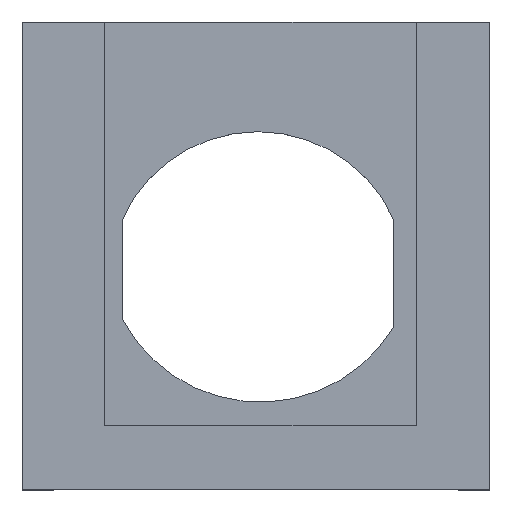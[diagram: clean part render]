
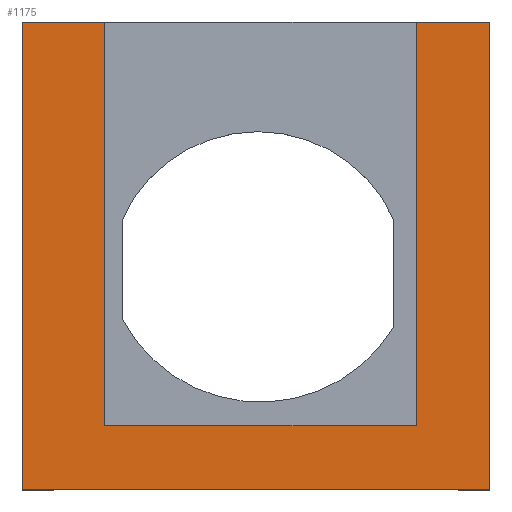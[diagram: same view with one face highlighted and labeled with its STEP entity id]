
A CAD part, top view. The second image highlights one B-rep face of the part: STEP entity #1175.
In plain terms, the highlighted planar face has unit normal (0, 0, 1).
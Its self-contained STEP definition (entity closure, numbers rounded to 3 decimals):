
#356 = VERTEX_POINT('',#357);
#357 = CARTESIAN_POINT('',(-30.,30.,2.5));
#366 = PLANE('',#367);
#367 = AXIS2_PLACEMENT_3D('',#368,#369,#370);
#368 = CARTESIAN_POINT('',(-30.,-30.,2.5));
#369 = DIRECTION('',(1.,0.,0.));
#370 = DIRECTION('',(0.,0.,-1.));
#378 = PLANE('',#379);
#379 = AXIS2_PLACEMENT_3D('',#380,#381,#382);
#380 = CARTESIAN_POINT('',(30.,30.,2.5));
#381 = DIRECTION('',(0.,-1.,0.));
#382 = DIRECTION('',(1.,0.,0.));
#531 = VERTEX_POINT('',#532);
#532 = CARTESIAN_POINT('',(-30.,-30.,2.5));
#546 = PLANE('',#547);
#547 = AXIS2_PLACEMENT_3D('',#548,#549,#550);
#548 = CARTESIAN_POINT('',(30.,-30.,2.5));
#549 = DIRECTION('',(0.,1.,0.));
#550 = DIRECTION('',(-1.,0.,0.));
#558 = EDGE_CURVE('',#356,#531,#559,.T.);
#559 = SURFACE_CURVE('',#560,(#564,#571),.PCURVE_S1.);
#560 = LINE('',#561,#562);
#561 = CARTESIAN_POINT('',(-30.,-30.,2.5));
#562 = VECTOR('',#563,1.);
#563 = DIRECTION('',(-0.,-1.,-0.));
#564 = PCURVE('',#366,#565);
#565 = DEFINITIONAL_REPRESENTATION('',(#566),#570);
#566 = LINE('',#567,#568);
#567 = CARTESIAN_POINT('',(0.,0.));
#568 = VECTOR('',#569,1.);
#569 = DIRECTION('',(0.,-1.));
#570 = ( GEOMETRIC_REPRESENTATION_CONTEXT(2) 
PARAMETRIC_REPRESENTATION_CONTEXT() REPRESENTATION_CONTEXT('2D SPACE',''
  ) );
#571 = PCURVE('',#572,#577);
#572 = PLANE('',#573);
#573 = AXIS2_PLACEMENT_3D('',#574,#575,#576);
#574 = CARTESIAN_POINT('',(0.,0.,2.5));
#575 = DIRECTION('',(0.,-0.,1.));
#576 = DIRECTION('',(1.,0.,0.));
#577 = DEFINITIONAL_REPRESENTATION('',(#578),#582);
#578 = LINE('',#579,#580);
#579 = CARTESIAN_POINT('',(-30.,-30.));
#580 = VECTOR('',#581,1.);
#581 = DIRECTION('',(-0.,-1.));
#582 = ( GEOMETRIC_REPRESENTATION_CONTEXT(2) 
PARAMETRIC_REPRESENTATION_CONTEXT() REPRESENTATION_CONTEXT('2D SPACE',''
  ) );
#714 = VERTEX_POINT('',#715);
#715 = CARTESIAN_POINT('',(30.,-30.,2.5));
#729 = PLANE('',#730);
#730 = AXIS2_PLACEMENT_3D('',#731,#732,#733);
#731 = CARTESIAN_POINT('',(30.,-30.,2.5));
#732 = DIRECTION('',(-1.,0.,0.));
#733 = DIRECTION('',(0.,0.,1.));
#741 = EDGE_CURVE('',#531,#714,#742,.T.);
#742 = SURFACE_CURVE('',#743,(#747,#754),.PCURVE_S1.);
#743 = LINE('',#744,#745);
#744 = CARTESIAN_POINT('',(30.,-30.,2.5));
#745 = VECTOR('',#746,1.);
#746 = DIRECTION('',(1.,0.,-0.));
#747 = PCURVE('',#546,#748);
#748 = DEFINITIONAL_REPRESENTATION('',(#749),#753);
#749 = LINE('',#750,#751);
#750 = CARTESIAN_POINT('',(0.,0.));
#751 = VECTOR('',#752,1.);
#752 = DIRECTION('',(-1.,0.));
#753 = ( GEOMETRIC_REPRESENTATION_CONTEXT(2) 
PARAMETRIC_REPRESENTATION_CONTEXT() REPRESENTATION_CONTEXT('2D SPACE',''
  ) );
#754 = PCURVE('',#572,#755);
#755 = DEFINITIONAL_REPRESENTATION('',(#756),#760);
#756 = LINE('',#757,#758);
#757 = CARTESIAN_POINT('',(30.,-30.));
#758 = VECTOR('',#759,1.);
#759 = DIRECTION('',(1.,0.));
#760 = ( GEOMETRIC_REPRESENTATION_CONTEXT(2) 
PARAMETRIC_REPRESENTATION_CONTEXT() REPRESENTATION_CONTEXT('2D SPACE',''
  ) );
#892 = VERTEX_POINT('',#893);
#893 = CARTESIAN_POINT('',(30.,30.,2.5));
#914 = EDGE_CURVE('',#714,#892,#915,.T.);
#915 = SURFACE_CURVE('',#916,(#920,#927),.PCURVE_S1.);
#916 = LINE('',#917,#918);
#917 = CARTESIAN_POINT('',(30.,-30.,2.5));
#918 = VECTOR('',#919,1.);
#919 = DIRECTION('',(0.,1.,0.));
#920 = PCURVE('',#729,#921);
#921 = DEFINITIONAL_REPRESENTATION('',(#922),#926);
#922 = LINE('',#923,#924);
#923 = CARTESIAN_POINT('',(0.,0.));
#924 = VECTOR('',#925,1.);
#925 = DIRECTION('',(0.,1.));
#926 = ( GEOMETRIC_REPRESENTATION_CONTEXT(2) 
PARAMETRIC_REPRESENTATION_CONTEXT() REPRESENTATION_CONTEXT('2D SPACE',''
  ) );
#927 = PCURVE('',#572,#928);
#928 = DEFINITIONAL_REPRESENTATION('',(#929),#933);
#929 = LINE('',#930,#931);
#930 = CARTESIAN_POINT('',(30.,-30.));
#931 = VECTOR('',#932,1.);
#932 = DIRECTION('',(0.,1.));
#933 = ( GEOMETRIC_REPRESENTATION_CONTEXT(2) 
PARAMETRIC_REPRESENTATION_CONTEXT() REPRESENTATION_CONTEXT('2D SPACE',''
  ) );
#964 = VERTEX_POINT('',#965);
#965 = CARTESIAN_POINT('',(20.542,30.,2.5));
#979 = PLANE('',#980);
#980 = AXIS2_PLACEMENT_3D('',#981,#982,#983);
#981 = CARTESIAN_POINT('',(20.542,-21.769,2.));
#982 = DIRECTION('',(1.,-0.,0.));
#983 = DIRECTION('',(0.,0.,-1.));
#991 = EDGE_CURVE('',#892,#964,#992,.T.);
#992 = SURFACE_CURVE('',#993,(#997,#1004),.PCURVE_S1.);
#993 = LINE('',#994,#995);
#994 = CARTESIAN_POINT('',(30.,30.,2.5));
#995 = VECTOR('',#996,1.);
#996 = DIRECTION('',(-1.,0.,0.));
#997 = PCURVE('',#378,#998);
#998 = DEFINITIONAL_REPRESENTATION('',(#999),#1003);
#999 = LINE('',#1000,#1001);
#1000 = CARTESIAN_POINT('',(0.,0.));
#1001 = VECTOR('',#1002,1.);
#1002 = DIRECTION('',(-1.,0.));
#1003 = ( GEOMETRIC_REPRESENTATION_CONTEXT(2) 
PARAMETRIC_REPRESENTATION_CONTEXT() REPRESENTATION_CONTEXT('2D SPACE',''
  ) );
#1004 = PCURVE('',#572,#1005);
#1005 = DEFINITIONAL_REPRESENTATION('',(#1006),#1010);
#1006 = LINE('',#1007,#1008);
#1007 = CARTESIAN_POINT('',(30.,30.));
#1008 = VECTOR('',#1009,1.);
#1009 = DIRECTION('',(-1.,0.));
#1010 = ( GEOMETRIC_REPRESENTATION_CONTEXT(2) 
PARAMETRIC_REPRESENTATION_CONTEXT() REPRESENTATION_CONTEXT('2D SPACE',''
  ) );
#1127 = EDGE_CURVE('',#1128,#356,#1130,.T.);
#1128 = VERTEX_POINT('',#1129);
#1129 = CARTESIAN_POINT('',(-19.396,30.,2.5));
#1130 = SURFACE_CURVE('',#1131,(#1135,#1142),.PCURVE_S1.);
#1131 = LINE('',#1132,#1133);
#1132 = CARTESIAN_POINT('',(30.,30.,2.5));
#1133 = VECTOR('',#1134,1.);
#1134 = DIRECTION('',(-1.,0.,0.));
#1135 = PCURVE('',#378,#1136);
#1136 = DEFINITIONAL_REPRESENTATION('',(#1137),#1141);
#1137 = LINE('',#1138,#1139);
#1138 = CARTESIAN_POINT('',(0.,0.));
#1139 = VECTOR('',#1140,1.);
#1140 = DIRECTION('',(-1.,0.));
#1141 = ( GEOMETRIC_REPRESENTATION_CONTEXT(2) 
PARAMETRIC_REPRESENTATION_CONTEXT() REPRESENTATION_CONTEXT('2D SPACE',''
  ) );
#1142 = PCURVE('',#572,#1143);
#1143 = DEFINITIONAL_REPRESENTATION('',(#1144),#1148);
#1144 = LINE('',#1145,#1146);
#1145 = CARTESIAN_POINT('',(30.,30.));
#1146 = VECTOR('',#1147,1.);
#1147 = DIRECTION('',(-1.,0.));
#1148 = ( GEOMETRIC_REPRESENTATION_CONTEXT(2) 
PARAMETRIC_REPRESENTATION_CONTEXT() REPRESENTATION_CONTEXT('2D SPACE',''
  ) );
#1164 = PLANE('',#1165);
#1165 = AXIS2_PLACEMENT_3D('',#1166,#1167,#1168);
#1166 = CARTESIAN_POINT('',(-19.396,30.,2.));
#1167 = DIRECTION('',(-1.,0.,-0.));
#1168 = DIRECTION('',(0.,0.,1.));
#1175 = ADVANCED_FACE('',(#1176),#572,.T.);
#1176 = FACE_BOUND('',#1177,.T.);
#1177 = EDGE_LOOP('',(#1178,#1201,#1229,#1250,#1251,#1252,#1253,#1254));
#1178 = ORIENTED_EDGE('',*,*,#1179,.F.);
#1179 = EDGE_CURVE('',#1180,#964,#1182,.T.);
#1180 = VERTEX_POINT('',#1181);
#1181 = CARTESIAN_POINT('',(20.542,-21.769,2.5));
#1182 = SURFACE_CURVE('',#1183,(#1187,#1194),.PCURVE_S1.);
#1183 = LINE('',#1184,#1185);
#1184 = CARTESIAN_POINT('',(20.542,-21.769,2.5));
#1185 = VECTOR('',#1186,1.);
#1186 = DIRECTION('',(0.,1.,0.));
#1187 = PCURVE('',#572,#1188);
#1188 = DEFINITIONAL_REPRESENTATION('',(#1189),#1193);
#1189 = LINE('',#1190,#1191);
#1190 = CARTESIAN_POINT('',(20.542,-21.769));
#1191 = VECTOR('',#1192,1.);
#1192 = DIRECTION('',(0.,1.));
#1193 = ( GEOMETRIC_REPRESENTATION_CONTEXT(2) 
PARAMETRIC_REPRESENTATION_CONTEXT() REPRESENTATION_CONTEXT('2D SPACE',''
  ) );
#1194 = PCURVE('',#979,#1195);
#1195 = DEFINITIONAL_REPRESENTATION('',(#1196),#1200);
#1196 = LINE('',#1197,#1198);
#1197 = CARTESIAN_POINT('',(-0.5,0.));
#1198 = VECTOR('',#1199,1.);
#1199 = DIRECTION('',(0.,1.));
#1200 = ( GEOMETRIC_REPRESENTATION_CONTEXT(2) 
PARAMETRIC_REPRESENTATION_CONTEXT() REPRESENTATION_CONTEXT('2D SPACE',''
  ) );
#1201 = ORIENTED_EDGE('',*,*,#1202,.F.);
#1202 = EDGE_CURVE('',#1203,#1180,#1205,.T.);
#1203 = VERTEX_POINT('',#1204);
#1204 = CARTESIAN_POINT('',(-19.396,-21.769,2.5));
#1205 = SURFACE_CURVE('',#1206,(#1210,#1217),.PCURVE_S1.);
#1206 = LINE('',#1207,#1208);
#1207 = CARTESIAN_POINT('',(-19.396,-21.769,2.5));
#1208 = VECTOR('',#1209,1.);
#1209 = DIRECTION('',(1.,0.,0.));
#1210 = PCURVE('',#572,#1211);
#1211 = DEFINITIONAL_REPRESENTATION('',(#1212),#1216);
#1212 = LINE('',#1213,#1214);
#1213 = CARTESIAN_POINT('',(-19.396,-21.769));
#1214 = VECTOR('',#1215,1.);
#1215 = DIRECTION('',(1.,0.));
#1216 = ( GEOMETRIC_REPRESENTATION_CONTEXT(2) 
PARAMETRIC_REPRESENTATION_CONTEXT() REPRESENTATION_CONTEXT('2D SPACE',''
  ) );
#1217 = PCURVE('',#1218,#1223);
#1218 = PLANE('',#1219);
#1219 = AXIS2_PLACEMENT_3D('',#1220,#1221,#1222);
#1220 = CARTESIAN_POINT('',(-19.396,-21.769,2.));
#1221 = DIRECTION('',(0.,-1.,0.));
#1222 = DIRECTION('',(0.,-0.,-1.));
#1223 = DEFINITIONAL_REPRESENTATION('',(#1224),#1228);
#1224 = LINE('',#1225,#1226);
#1225 = CARTESIAN_POINT('',(-0.5,0.));
#1226 = VECTOR('',#1227,1.);
#1227 = DIRECTION('',(0.,1.));
#1228 = ( GEOMETRIC_REPRESENTATION_CONTEXT(2) 
PARAMETRIC_REPRESENTATION_CONTEXT() REPRESENTATION_CONTEXT('2D SPACE',''
  ) );
#1229 = ORIENTED_EDGE('',*,*,#1230,.F.);
#1230 = EDGE_CURVE('',#1128,#1203,#1231,.T.);
#1231 = SURFACE_CURVE('',#1232,(#1236,#1243),.PCURVE_S1.);
#1232 = LINE('',#1233,#1234);
#1233 = CARTESIAN_POINT('',(-19.396,30.,2.5));
#1234 = VECTOR('',#1235,1.);
#1235 = DIRECTION('',(0.,-1.,0.));
#1236 = PCURVE('',#572,#1237);
#1237 = DEFINITIONAL_REPRESENTATION('',(#1238),#1242);
#1238 = LINE('',#1239,#1240);
#1239 = CARTESIAN_POINT('',(-19.396,30.));
#1240 = VECTOR('',#1241,1.);
#1241 = DIRECTION('',(0.,-1.));
#1242 = ( GEOMETRIC_REPRESENTATION_CONTEXT(2) 
PARAMETRIC_REPRESENTATION_CONTEXT() REPRESENTATION_CONTEXT('2D SPACE',''
  ) );
#1243 = PCURVE('',#1164,#1244);
#1244 = DEFINITIONAL_REPRESENTATION('',(#1245),#1249);
#1245 = LINE('',#1246,#1247);
#1246 = CARTESIAN_POINT('',(0.5,0.));
#1247 = VECTOR('',#1248,1.);
#1248 = DIRECTION('',(0.,-1.));
#1249 = ( GEOMETRIC_REPRESENTATION_CONTEXT(2) 
PARAMETRIC_REPRESENTATION_CONTEXT() REPRESENTATION_CONTEXT('2D SPACE',''
  ) );
#1250 = ORIENTED_EDGE('',*,*,#1127,.T.);
#1251 = ORIENTED_EDGE('',*,*,#558,.T.);
#1252 = ORIENTED_EDGE('',*,*,#741,.T.);
#1253 = ORIENTED_EDGE('',*,*,#914,.T.);
#1254 = ORIENTED_EDGE('',*,*,#991,.T.);
